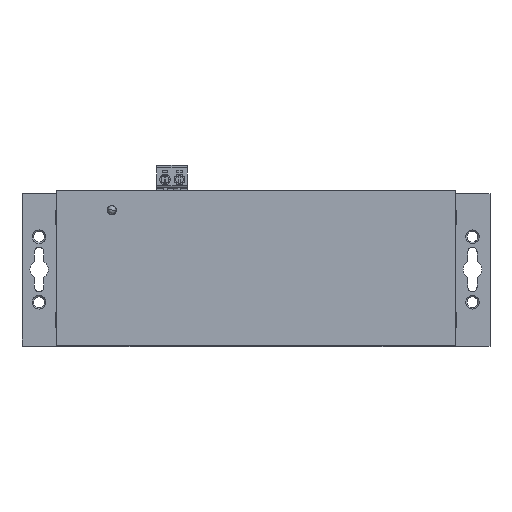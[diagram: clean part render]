
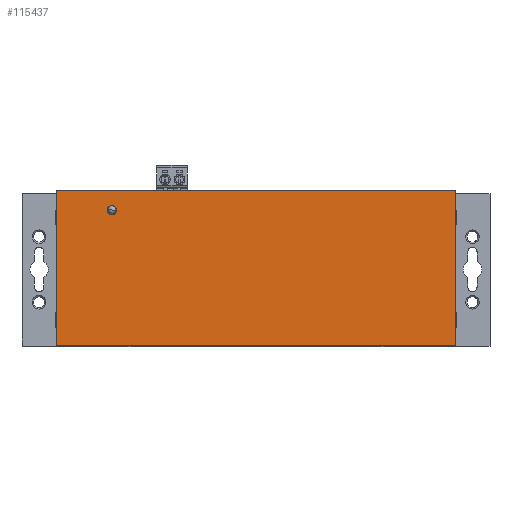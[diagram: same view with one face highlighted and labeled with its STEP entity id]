
A CAD part, top view. The second image highlights one B-rep face of the part: STEP entity #115437.
In plain terms, the highlighted planar face has unit normal (0, 0, 1).
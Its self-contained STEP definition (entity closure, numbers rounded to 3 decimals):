
#32625 = CYLINDRICAL_SURFACE('',#32626,1.8);
#32626 = AXIS2_PLACEMENT_3D('',#32627,#32628,#32629);
#32627 = CARTESIAN_POINT('',(34.3,51.8,20.));
#32628 = DIRECTION('',(0.,0.,1.));
#32629 = DIRECTION('',(1.,0.,0.));
#73467 = EDGE_CURVE('',#73468,#73468,#73470,.T.);
#73468 = VERTEX_POINT('',#73469);
#73469 = CARTESIAN_POINT('',(36.1,51.8,23.2));
#73470 = SURFACE_CURVE('',#73471,(#73476,#73483),.PCURVE_S1.);
#73471 = CIRCLE('',#73472,1.8);
#73472 = AXIS2_PLACEMENT_3D('',#73473,#73474,#73475);
#73473 = CARTESIAN_POINT('',(34.3,51.8,23.2));
#73474 = DIRECTION('',(0.,0.,1.));
#73475 = DIRECTION('',(1.,0.,0.));
#73476 = PCURVE('',#32625,#73477);
#73477 = DEFINITIONAL_REPRESENTATION('',(#73478),#73482);
#73478 = LINE('',#73479,#73480);
#73479 = CARTESIAN_POINT('',(0.,3.2));
#73480 = VECTOR('',#73481,1.);
#73481 = DIRECTION('',(1.,0.));
#73482 = ( GEOMETRIC_REPRESENTATION_CONTEXT(2) 
PARAMETRIC_REPRESENTATION_CONTEXT() REPRESENTATION_CONTEXT('2D SPACE',''
  ) );
#73483 = PCURVE('',#73484,#73489);
#73484 = PLANE('',#73485);
#73485 = AXIS2_PLACEMENT_3D('',#73486,#73487,#73488);
#73486 = CARTESIAN_POINT('',(0.,0.,23.2));
#73487 = DIRECTION('',(0.,0.,1.));
#73488 = DIRECTION('',(1.,0.,0.));
#73489 = DEFINITIONAL_REPRESENTATION('',(#73490),#73494);
#73490 = CIRCLE('',#73491,1.8);
#73491 = AXIS2_PLACEMENT_2D('',#73492,#73493);
#73492 = CARTESIAN_POINT('',(34.3,51.8));
#73493 = DIRECTION('',(1.,0.));
#73494 = ( GEOMETRIC_REPRESENTATION_CONTEXT(2) 
PARAMETRIC_REPRESENTATION_CONTEXT() REPRESENTATION_CONTEXT('2D SPACE',''
  ) );
#73638 = PLANE('',#73639);
#73639 = AXIS2_PLACEMENT_3D('',#73640,#73641,#73642);
#73640 = CARTESIAN_POINT('',(0.,0.,0.));
#73641 = DIRECTION('',(0.,1.,0.));
#73642 = DIRECTION('',(0.,0.,1.));
#110905 = PLANE('',#110906);
#110906 = AXIS2_PLACEMENT_3D('',#110907,#110908,#110909);
#110907 = CARTESIAN_POINT('',(13.,0.,1.));
#110908 = DIRECTION('',(1.,0.,0.));
#110909 = DIRECTION('',(0.,0.,1.));
#112140 = PLANE('',#112141);
#112141 = AXIS2_PLACEMENT_3D('',#112142,#112143,#112144);
#112142 = CARTESIAN_POINT('',(0.,59.2,0.));
#112143 = DIRECTION('',(0.,1.,0.));
#112144 = DIRECTION('',(0.,0.,1.));
#114253 = PLANE('',#114254);
#114254 = AXIS2_PLACEMENT_3D('',#114255,#114256,#114257);
#114255 = CARTESIAN_POINT('',(165.6,0.,1.));
#114256 = DIRECTION('',(1.,0.,0.));
#114257 = DIRECTION('',(0.,0.,1.));
#115437 = ADVANCED_FACE('',(#115438,#115530),#73484,.T.);
#115438 = FACE_BOUND('',#115439,.T.);
#115439 = EDGE_LOOP('',(#115440,#115465,#115487,#115510));
#115440 = ORIENTED_EDGE('',*,*,#115441,.F.);
#115441 = EDGE_CURVE('',#115442,#115444,#115446,.T.);
#115442 = VERTEX_POINT('',#115443);
#115443 = CARTESIAN_POINT('',(13.,59.2,23.2));
#115444 = VERTEX_POINT('',#115445);
#115445 = CARTESIAN_POINT('',(165.6,59.2,23.2));
#115446 = SURFACE_CURVE('',#115447,(#115451,#115458),.PCURVE_S1.);
#115447 = LINE('',#115448,#115449);
#115448 = CARTESIAN_POINT('',(0.,59.2,23.2));
#115449 = VECTOR('',#115450,1.);
#115450 = DIRECTION('',(1.,0.,0.));
#115451 = PCURVE('',#73484,#115452);
#115452 = DEFINITIONAL_REPRESENTATION('',(#115453),#115457);
#115453 = LINE('',#115454,#115455);
#115454 = CARTESIAN_POINT('',(0.,59.2));
#115455 = VECTOR('',#115456,1.);
#115456 = DIRECTION('',(1.,0.));
#115457 = ( GEOMETRIC_REPRESENTATION_CONTEXT(2) 
PARAMETRIC_REPRESENTATION_CONTEXT() REPRESENTATION_CONTEXT('2D SPACE',''
  ) );
#115458 = PCURVE('',#112140,#115459);
#115459 = DEFINITIONAL_REPRESENTATION('',(#115460),#115464);
#115460 = LINE('',#115461,#115462);
#115461 = CARTESIAN_POINT('',(23.2,0.));
#115462 = VECTOR('',#115463,1.);
#115463 = DIRECTION('',(0.,1.));
#115464 = ( GEOMETRIC_REPRESENTATION_CONTEXT(2) 
PARAMETRIC_REPRESENTATION_CONTEXT() REPRESENTATION_CONTEXT('2D SPACE',''
  ) );
#115465 = ORIENTED_EDGE('',*,*,#115466,.F.);
#115466 = EDGE_CURVE('',#115467,#115442,#115469,.T.);
#115467 = VERTEX_POINT('',#115468);
#115468 = CARTESIAN_POINT('',(13.,0.,23.2));
#115469 = SURFACE_CURVE('',#115470,(#115474,#115480),.PCURVE_S1.);
#115470 = LINE('',#115471,#115472);
#115471 = CARTESIAN_POINT('',(13.,0.,23.2));
#115472 = VECTOR('',#115473,1.);
#115473 = DIRECTION('',(0.,1.,0.));
#115474 = PCURVE('',#73484,#115475);
#115475 = DEFINITIONAL_REPRESENTATION('',(#115476),#115479);
#115476 = B_SPLINE_CURVE_WITH_KNOTS('',1,(#115477,#115478),
  .UNSPECIFIED.,.F.,.F.,(2,2),(-5.92,65.12),.PIECEWISE_BEZIER_KNOTS.);
#115477 = CARTESIAN_POINT('',(13.,-5.92));
#115478 = CARTESIAN_POINT('',(13.,65.12));
#115479 = ( GEOMETRIC_REPRESENTATION_CONTEXT(2) 
PARAMETRIC_REPRESENTATION_CONTEXT() REPRESENTATION_CONTEXT('2D SPACE',''
  ) );
#115480 = PCURVE('',#110905,#115481);
#115481 = DEFINITIONAL_REPRESENTATION('',(#115482),#115486);
#115482 = LINE('',#115483,#115484);
#115483 = CARTESIAN_POINT('',(22.2,0.));
#115484 = VECTOR('',#115485,1.);
#115485 = DIRECTION('',(0.,-1.));
#115486 = ( GEOMETRIC_REPRESENTATION_CONTEXT(2) 
PARAMETRIC_REPRESENTATION_CONTEXT() REPRESENTATION_CONTEXT('2D SPACE',''
  ) );
#115487 = ORIENTED_EDGE('',*,*,#115488,.T.);
#115488 = EDGE_CURVE('',#115467,#115489,#115491,.T.);
#115489 = VERTEX_POINT('',#115490);
#115490 = CARTESIAN_POINT('',(165.6,0.,23.2));
#115491 = SURFACE_CURVE('',#115492,(#115496,#115503),.PCURVE_S1.);
#115492 = LINE('',#115493,#115494);
#115493 = CARTESIAN_POINT('',(0.,0.,23.2));
#115494 = VECTOR('',#115495,1.);
#115495 = DIRECTION('',(1.,0.,0.));
#115496 = PCURVE('',#73484,#115497);
#115497 = DEFINITIONAL_REPRESENTATION('',(#115498),#115502);
#115498 = LINE('',#115499,#115500);
#115499 = CARTESIAN_POINT('',(0.,0.));
#115500 = VECTOR('',#115501,1.);
#115501 = DIRECTION('',(1.,0.));
#115502 = ( GEOMETRIC_REPRESENTATION_CONTEXT(2) 
PARAMETRIC_REPRESENTATION_CONTEXT() REPRESENTATION_CONTEXT('2D SPACE',''
  ) );
#115503 = PCURVE('',#73638,#115504);
#115504 = DEFINITIONAL_REPRESENTATION('',(#115505),#115509);
#115505 = LINE('',#115506,#115507);
#115506 = CARTESIAN_POINT('',(23.2,0.));
#115507 = VECTOR('',#115508,1.);
#115508 = DIRECTION('',(0.,1.));
#115509 = ( GEOMETRIC_REPRESENTATION_CONTEXT(2) 
PARAMETRIC_REPRESENTATION_CONTEXT() REPRESENTATION_CONTEXT('2D SPACE',''
  ) );
#115510 = ORIENTED_EDGE('',*,*,#115511,.T.);
#115511 = EDGE_CURVE('',#115489,#115444,#115512,.T.);
#115512 = SURFACE_CURVE('',#115513,(#115517,#115523),.PCURVE_S1.);
#115513 = LINE('',#115514,#115515);
#115514 = CARTESIAN_POINT('',(165.6,0.,23.2));
#115515 = VECTOR('',#115516,1.);
#115516 = DIRECTION('',(0.,1.,0.));
#115517 = PCURVE('',#73484,#115518);
#115518 = DEFINITIONAL_REPRESENTATION('',(#115519),#115522);
#115519 = B_SPLINE_CURVE_WITH_KNOTS('',1,(#115520,#115521),
  .UNSPECIFIED.,.F.,.F.,(2,2),(-5.92,65.12),.PIECEWISE_BEZIER_KNOTS.);
#115520 = CARTESIAN_POINT('',(165.6,-5.92));
#115521 = CARTESIAN_POINT('',(165.6,65.12));
#115522 = ( GEOMETRIC_REPRESENTATION_CONTEXT(2) 
PARAMETRIC_REPRESENTATION_CONTEXT() REPRESENTATION_CONTEXT('2D SPACE',''
  ) );
#115523 = PCURVE('',#114253,#115524);
#115524 = DEFINITIONAL_REPRESENTATION('',(#115525),#115529);
#115525 = LINE('',#115526,#115527);
#115526 = CARTESIAN_POINT('',(22.2,0.));
#115527 = VECTOR('',#115528,1.);
#115528 = DIRECTION('',(0.,-1.));
#115529 = ( GEOMETRIC_REPRESENTATION_CONTEXT(2) 
PARAMETRIC_REPRESENTATION_CONTEXT() REPRESENTATION_CONTEXT('2D SPACE',''
  ) );
#115530 = FACE_BOUND('',#115531,.T.);
#115531 = EDGE_LOOP('',(#115532));
#115532 = ORIENTED_EDGE('',*,*,#73467,.F.);
